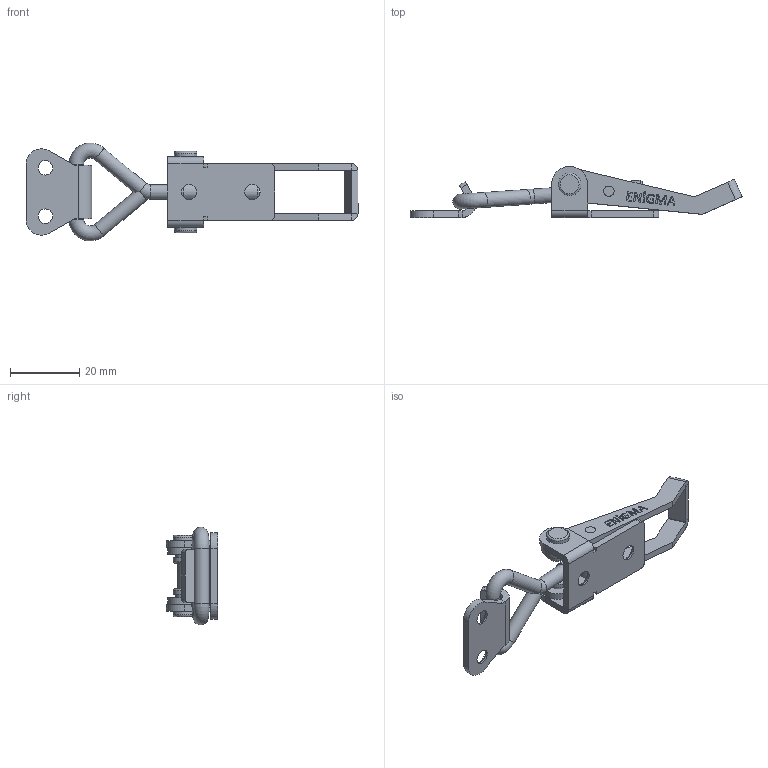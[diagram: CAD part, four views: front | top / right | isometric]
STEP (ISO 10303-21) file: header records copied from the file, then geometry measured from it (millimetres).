
FILE_DESCRIPTION (( 'STEP AP214' ), '1' );
FILE_NAME ('93705_.STEP', '2023-12-04T12:22:35', ( '' ), ( '' ), 'SwSTEP 2.0', 'SolidWorks 2024', '' );
FILE_SCHEMA (( 'AUTOMOTIVE_DESIGN' ));
Length unit declared in the file: millimetre
Products named in the file (7): 93705_karşılık kancası_Varsayılan; 93705_govde_Varsayılan; m5_ucgen kancaa_Varsayılan; 93705_; M5_kanca bağlantı mili_Varsayılan; 93705_percin_Varsayılan; 93705_hareket kolu_Varsayılan
Assembly tree (7 placements, depth 2):
  93705_
    93705_govde_Varsayılan
    93705_hareket kolu_Varsayılan
    93705_karşılık kancası_Varsayılan
    93705_percin_Varsayılan  x2
    M5_kanca bağlantı mili_Varsayılan
    m5_ucgen kancaa_Varsayılan
Bounding box: 96.09 x 14.8 x 28.29 mm (x, y, z)
Volume: 6383.3 mm3; surface area: 7543.2 mm2
Topology: 7 solids, 7 shells, 332 faces, 833 edges, 538 vertices
Faces by surface type: plane 153, bspline 122, cylinder 45, torus 7, cone 5
Full cylindrical faces by diameter (mm): 3 x4, 3.5 x4, 4.2 x2, 4.3 x5, 4.5 x2, 5 x3, 6.5 x4, 8 x1
Entity records: 19958 total; most frequent: CARTESIAN_POINT 10726, ORIENTED_EDGE 1558, DIRECTION 1042, EDGE_CURVE 779, VERTEX_POINT 523, LINE 440, VECTOR 440, EDGE_LOOP 402
